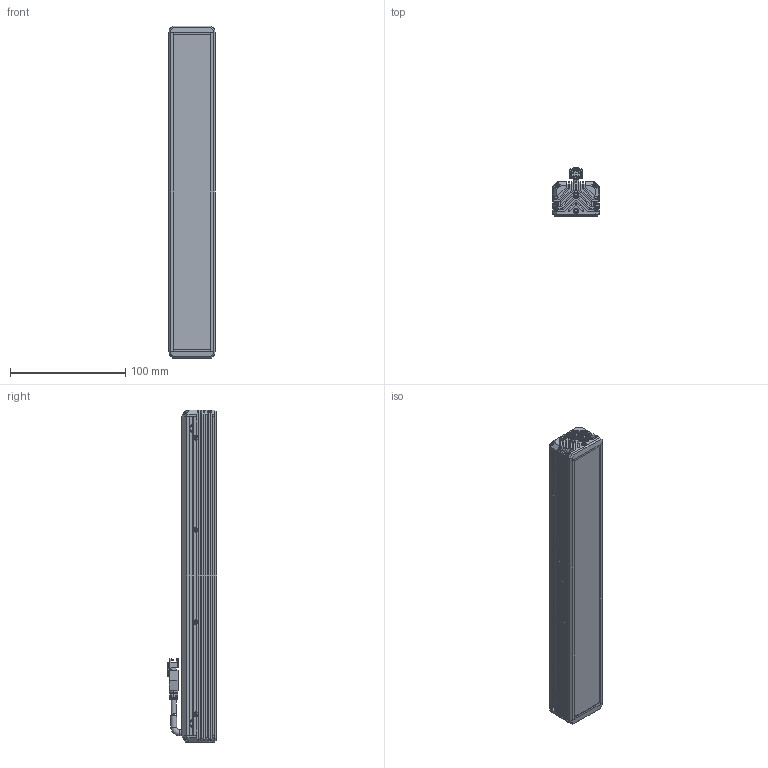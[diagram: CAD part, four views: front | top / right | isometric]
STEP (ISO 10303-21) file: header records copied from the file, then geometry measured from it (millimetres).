
FILE_DESCRIPTION((''),'2;1');
FILE_NAME('MV-LLDS-H-300-40-W-PL_ASM','2024-04-08T13:52:22',('huguozhe'),(''),'CREO PARAMETRIC BY PTC INC, 2020044','CREO PARAMETRIC BY PTC INC, 2020044','');
FILE_SCHEMA(('AUTOMOTIVE_DESIGN { 1 0 10303 214 1 1 1 1 }'));
Length unit declared in the file: millimetre
Products named in the file (15): DE-15-001139; DE-15-001138_ASM; DE-15-000353; DE-15-000387_ASM; DE-12-001338; DE-12-002350; TIP-M3X4-4_5X5-SO-ET-07061033; DE-12-002350_ASM; XIANLAN_HEAD; CABLE_HEAD; CABLE_HEAD_ASM_ASM; SC-KM2X6-BNI-GB819; SC-PM2X6B-JMP; 190100852; MV-LLDS-H-300-40-W-PL_ASM
Assembly tree (33 placements, depth 3):
  MV-LLDS-H-300-40-W-PL_ASM
    DE-15-001138_ASM
      DE-15-001139
    DE-15-000387_ASM
      DE-15-000353
    DE-12-001338
    DE-12-002350_ASM  x2
      DE-12-002350
      TIP-M3X4-4_5X5-SO-ET-07061033
    CABLE_HEAD_ASM_ASM
      XIANLAN_HEAD
      CABLE_HEAD
    SC-KM2X6-BNI-GB819  x4
    SC-PM2X6B-JMP  x8
    190100852  x8
Bounding box: 40 x 42.65 x 288 mm (x, y, z)
Volume: 268151.3 mm3; surface area: 142461 mm2
Topology: 31 solids, 67 shells, 2817 faces, 7281 edges, 4587 vertices
Faces by surface type: plane 1364, cylinder 589, bspline 472, cone 333, torus 50, sphere 8, extrusion 1
Entity records: 48750 total; most frequent: CARTESIAN_POINT 11363, ORIENTED_EDGE 6280, DIRECTION 6048, EDGE_CURVE 3172, VERTEX_POINT 2034, VECTOR 2030, LINE 2029, AXIS2_PLACEMENT_3D 2009
